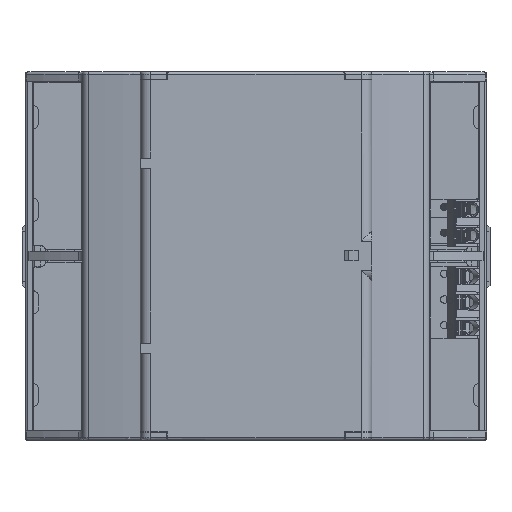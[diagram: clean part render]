
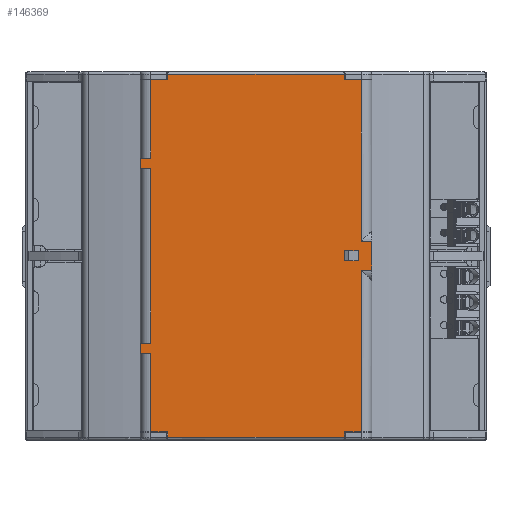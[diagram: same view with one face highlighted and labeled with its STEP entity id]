
A CAD part, top view. The second image highlights one B-rep face of the part: STEP entity #146369.
In plain terms, the highlighted planar face has unit normal (0, 0, 1) as drawn and (0, 1, 0) by its records, which use the part's own axes.
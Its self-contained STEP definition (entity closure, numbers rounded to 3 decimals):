
#1312=FACE_BOUND('',#17856,.T.);
#9997=FACE_OUTER_BOUND('',#17855,.T.);
#17855=EDGE_LOOP('',(#127456,#127457,#127458,#127459,#127460,#127461,#127462,
#127463,#127464,#127465,#127466,#127467,#127468,#127469,#127470,#127471,
#127472,#127473,#127474,#127475,#127476,#127477,#127478,#127479));
#17856=EDGE_LOOP('',(#127480,#127481,#127482,#127483));
#35796=LINE('',#229266,#54829);
#35798=LINE('',#229276,#54831);
#35799=LINE('',#229280,#54832);
#35817=LINE('',#229325,#54850);
#35830=LINE('',#229358,#54863);
#35836=LINE('',#229374,#54869);
#35842=LINE('',#229387,#54875);
#35855=LINE('',#229418,#54888);
#35856=LINE('',#229422,#54889);
#35870=LINE('',#229461,#54903);
#35891=LINE('',#229506,#54924);
#35916=LINE('',#229562,#54949);
#35917=LINE('',#229564,#54950);
#35918=LINE('',#229565,#54951);
#35919=LINE('',#229567,#54952);
#35920=LINE('',#229568,#54953);
#35921=LINE('',#229570,#54954);
#35922=LINE('',#229571,#54955);
#35923=LINE('',#229572,#54956);
#35924=LINE('',#229574,#54957);
#35925=LINE('',#229575,#54958);
#35926=LINE('',#229577,#54959);
#35927=LINE('',#229579,#54960);
#35928=LINE('',#229581,#54961);
#35929=LINE('',#229582,#54962);
#35930=LINE('',#229583,#54963);
#35931=LINE('',#229584,#54964);
#35932=LINE('',#229585,#54965);
#54829=VECTOR('',#187352,1.);
#54831=VECTOR('',#187362,1.);
#54832=VECTOR('',#187365,1.);
#54850=VECTOR('',#187401,1.);
#54863=VECTOR('',#187426,1.);
#54869=VECTOR('',#187440,1.);
#54875=VECTOR('',#187450,1.);
#54888=VECTOR('',#187475,1.);
#54889=VECTOR('',#187478,1.);
#54903=VECTOR('',#187510,1.);
#54924=VECTOR('',#187549,1.);
#54949=VECTOR('',#187600,1.);
#54950=VECTOR('',#187601,1.);
#54951=VECTOR('',#187602,1.);
#54952=VECTOR('',#187603,1.);
#54953=VECTOR('',#187604,1.);
#54954=VECTOR('',#187605,1.);
#54955=VECTOR('',#187606,1.);
#54956=VECTOR('',#187607,1.);
#54957=VECTOR('',#187608,1.);
#54958=VECTOR('',#187609,1.);
#54959=VECTOR('',#187610,1.);
#54960=VECTOR('',#187611,1.);
#54961=VECTOR('',#187612,1.);
#54962=VECTOR('',#187613,1.);
#54963=VECTOR('',#187614,1.);
#54964=VECTOR('',#187615,1.);
#54965=VECTOR('',#187616,1.);
#68934=VERTEX_POINT('',#229263);
#68935=VERTEX_POINT('',#229265);
#68936=VERTEX_POINT('',#229269);
#68939=VERTEX_POINT('',#229274);
#68940=VERTEX_POINT('',#229278);
#68941=VERTEX_POINT('',#229279);
#68958=VERTEX_POINT('',#229322);
#68959=VERTEX_POINT('',#229324);
#68972=VERTEX_POINT('',#229356);
#68973=VERTEX_POINT('',#229357);
#68979=VERTEX_POINT('',#229372);
#68983=VERTEX_POINT('',#229384);
#68984=VERTEX_POINT('',#229386);
#68996=VERTEX_POINT('',#229416);
#68997=VERTEX_POINT('',#229420);
#68998=VERTEX_POINT('',#229421);
#69013=VERTEX_POINT('',#229459);
#69014=VERTEX_POINT('',#229460);
#69029=VERTEX_POINT('',#229504);
#69046=VERTEX_POINT('',#229560);
#69047=VERTEX_POINT('',#229561);
#69048=VERTEX_POINT('',#229563);
#69049=VERTEX_POINT('',#229566);
#69050=VERTEX_POINT('',#229569);
#69051=VERTEX_POINT('',#229573);
#69052=VERTEX_POINT('',#229576);
#69053=VERTEX_POINT('',#229578);
#69054=VERTEX_POINT('',#229580);
#88725=EDGE_CURVE('',#68934,#68935,#35796,.T.);
#88730=EDGE_CURVE('',#68939,#68936,#35798,.T.);
#88731=EDGE_CURVE('',#68940,#68941,#35799,.T.);
#88752=EDGE_CURVE('',#68958,#68959,#35817,.T.);
#88767=EDGE_CURVE('',#68972,#68973,#35830,.T.);
#88775=EDGE_CURVE('',#68979,#68958,#35836,.T.);
#88781=EDGE_CURVE('',#68983,#68984,#35842,.T.);
#88797=EDGE_CURVE('',#68996,#68934,#35855,.T.);
#88798=EDGE_CURVE('',#68997,#68998,#35856,.T.);
#88816=EDGE_CURVE('',#69013,#69014,#35870,.T.);
#88840=EDGE_CURVE('',#69029,#68979,#35891,.T.);
#88868=EDGE_CURVE('',#69046,#69047,#35916,.T.);
#88869=EDGE_CURVE('',#69048,#69046,#35917,.T.);
#88870=EDGE_CURVE('',#69048,#69013,#35918,.T.);
#88871=EDGE_CURVE('',#69014,#69049,#35919,.T.);
#88872=EDGE_CURVE('',#69049,#68936,#35920,.T.);
#88873=EDGE_CURVE('',#68939,#69050,#35921,.T.);
#88874=EDGE_CURVE('',#69050,#68935,#35922,.T.);
#88875=EDGE_CURVE('',#68972,#68996,#35923,.T.);
#88876=EDGE_CURVE('',#68973,#69051,#35924,.T.);
#88877=EDGE_CURVE('',#68940,#69051,#35925,.T.);
#88878=EDGE_CURVE('',#68941,#69052,#35926,.T.);
#88879=EDGE_CURVE('',#69052,#69053,#35927,.T.);
#88880=EDGE_CURVE('',#69054,#69053,#35928,.T.);
#88881=EDGE_CURVE('',#68984,#69054,#35929,.T.);
#88882=EDGE_CURVE('',#68997,#68983,#35930,.T.);
#88883=EDGE_CURVE('',#69047,#68998,#35931,.T.);
#88884=EDGE_CURVE('',#69029,#68959,#35932,.T.);
#127456=ORIENTED_EDGE('',*,*,#88868,.F.);
#127457=ORIENTED_EDGE('',*,*,#88869,.F.);
#127458=ORIENTED_EDGE('',*,*,#88870,.T.);
#127459=ORIENTED_EDGE('',*,*,#88816,.T.);
#127460=ORIENTED_EDGE('',*,*,#88871,.T.);
#127461=ORIENTED_EDGE('',*,*,#88872,.T.);
#127462=ORIENTED_EDGE('',*,*,#88730,.F.);
#127463=ORIENTED_EDGE('',*,*,#88873,.T.);
#127464=ORIENTED_EDGE('',*,*,#88874,.T.);
#127465=ORIENTED_EDGE('',*,*,#88725,.F.);
#127466=ORIENTED_EDGE('',*,*,#88797,.F.);
#127467=ORIENTED_EDGE('',*,*,#88875,.F.);
#127468=ORIENTED_EDGE('',*,*,#88767,.T.);
#127469=ORIENTED_EDGE('',*,*,#88876,.T.);
#127470=ORIENTED_EDGE('',*,*,#88877,.F.);
#127471=ORIENTED_EDGE('',*,*,#88731,.T.);
#127472=ORIENTED_EDGE('',*,*,#88878,.T.);
#127473=ORIENTED_EDGE('',*,*,#88879,.T.);
#127474=ORIENTED_EDGE('',*,*,#88880,.F.);
#127475=ORIENTED_EDGE('',*,*,#88881,.F.);
#127476=ORIENTED_EDGE('',*,*,#88781,.F.);
#127477=ORIENTED_EDGE('',*,*,#88882,.F.);
#127478=ORIENTED_EDGE('',*,*,#88798,.T.);
#127479=ORIENTED_EDGE('',*,*,#88883,.F.);
#127480=ORIENTED_EDGE('',*,*,#88752,.F.);
#127481=ORIENTED_EDGE('',*,*,#88775,.F.);
#127482=ORIENTED_EDGE('',*,*,#88840,.F.);
#127483=ORIENTED_EDGE('',*,*,#88884,.T.);
#139414=PLANE('',#154810);
#146369=ADVANCED_FACE('',(#9997,#1312),#139414,.T.);
#154810=AXIS2_PLACEMENT_3D('',#229559,#187598,#187599);
#187352=DIRECTION('',(0.,0.,-1.));
#187362=DIRECTION('',(1.,0.,0.));
#187365=DIRECTION('',(0.,0.,1.));
#187401=DIRECTION('',(0.,0.,1.));
#187426=DIRECTION('',(1.,0.,0.));
#187440=DIRECTION('',(-1.,0.,0.));
#187450=DIRECTION('',(-1.,0.,0.));
#187475=DIRECTION('',(1.,0.,0.));
#187478=DIRECTION('',(-1.,0.,0.));
#187510=DIRECTION('',(0.,0.,-1.));
#187549=DIRECTION('',(0.,0.,-1.));
#187598=DIRECTION('center_axis',(0.,1.,0.));
#187599=DIRECTION('ref_axis',(0.,0.,-1.));
#187600=DIRECTION('',(-1.,0.,0.));
#187601=DIRECTION('',(0.,0.,1.));
#187602=DIRECTION('',(-1.,0.,0.));
#187603=DIRECTION('',(-1.,0.,0.));
#187604=DIRECTION('',(0.,0.,-1.));
#187605=DIRECTION('',(0.,0.,1.));
#187606=DIRECTION('',(-1.,0.,0.));
#187607=DIRECTION('',(0.,0.,-1.));
#187608=DIRECTION('',(0.,0.,1.));
#187609=DIRECTION('',(-1.,0.,0.));
#187610=DIRECTION('',(1.,0.,0.));
#187611=DIRECTION('',(0.,0.,-1.));
#187612=DIRECTION('',(-1.,0.,0.));
#187613=DIRECTION('',(0.,0.,1.));
#187614=DIRECTION('',(0.,0.,1.));
#187615=DIRECTION('',(0.,0.,1.));
#187616=DIRECTION('',(-1.,0.,0.));
#229263=CARTESIAN_POINT('',(-20.5,54.7,33.2));
#229265=CARTESIAN_POINT('',(-20.5,54.7,1.8));
#229266=CARTESIAN_POINT('',(-20.5,54.7,0.2));
#229269=CARTESIAN_POINT('',(17.2,54.7,0.7));
#229274=CARTESIAN_POINT('',(-17.2,54.7,0.7));
#229276=CARTESIAN_POINT('',(20.5,54.7,0.7));
#229278=CARTESIAN_POINT('',(-17.2,54.7,70.2));
#229279=CARTESIAN_POINT('',(-17.2,54.7,71.3));
#229280=CARTESIAN_POINT('',(-17.2,54.7,29.186));
#229322=CARTESIAN_POINT('',(-19.9,54.7,35.));
#229324=CARTESIAN_POINT('',(-19.9,54.7,37.));
#229325=CARTESIAN_POINT('',(-19.9,54.7,29.186));
#229356=CARTESIAN_POINT('',(-22.5,54.7,38.8));
#229357=CARTESIAN_POINT('',(-20.5,54.7,38.8));
#229358=CARTESIAN_POINT('',(-5.65,54.7,38.8));
#229372=CARTESIAN_POINT('',(-17.181,54.7,35.));
#229374=CARTESIAN_POINT('',(-1.588,54.7,35.));
#229384=CARTESIAN_POINT('',(22.5,54.7,55.));
#229386=CARTESIAN_POINT('',(20.5,54.7,55.));
#229387=CARTESIAN_POINT('',(-1.588,54.7,55.));
#229416=CARTESIAN_POINT('',(-22.5,54.7,33.2));
#229418=CARTESIAN_POINT('',(-5.65,54.7,33.2));
#229420=CARTESIAN_POINT('',(22.5,54.7,53.));
#229421=CARTESIAN_POINT('',(20.5,54.7,53.));
#229422=CARTESIAN_POINT('',(-1.588,54.7,53.));
#229459=CARTESIAN_POINT('',(20.5,54.7,17.));
#229460=CARTESIAN_POINT('',(20.5,54.7,1.8));
#229461=CARTESIAN_POINT('',(20.5,54.7,19.725));
#229504=CARTESIAN_POINT('',(-17.181,54.7,37.));
#229506=CARTESIAN_POINT('',(-17.181,54.7,29.186));
#229559=CARTESIAN_POINT('Origin',(20.5,54.7,22.055));
#229560=CARTESIAN_POINT('',(22.5,54.7,19.));
#229561=CARTESIAN_POINT('',(20.5,54.7,19.));
#229562=CARTESIAN_POINT('',(-1.588,54.7,19.));
#229563=CARTESIAN_POINT('',(22.5,54.7,17.));
#229564=CARTESIAN_POINT('',(22.5,54.7,29.186));
#229565=CARTESIAN_POINT('',(-1.588,54.7,17.));
#229566=CARTESIAN_POINT('',(17.2,54.7,1.8));
#229567=CARTESIAN_POINT('',(-1.588,54.7,1.8));
#229568=CARTESIAN_POINT('',(17.2,54.7,29.186));
#229569=CARTESIAN_POINT('',(-17.2,54.7,1.8));
#229570=CARTESIAN_POINT('',(-17.2,54.7,29.186));
#229571=CARTESIAN_POINT('',(-1.588,54.7,1.8));
#229572=CARTESIAN_POINT('',(-22.5,54.7,29.186));
#229573=CARTESIAN_POINT('',(-20.5,54.7,70.2));
#229574=CARTESIAN_POINT('',(-20.5,54.7,71.8));
#229575=CARTESIAN_POINT('',(-1.588,54.7,70.2));
#229576=CARTESIAN_POINT('',(17.2,54.7,71.3));
#229577=CARTESIAN_POINT('',(20.5,54.7,71.3));
#229578=CARTESIAN_POINT('',(17.2,54.7,70.2));
#229579=CARTESIAN_POINT('',(17.2,54.7,29.186));
#229580=CARTESIAN_POINT('',(20.5,54.7,70.2));
#229581=CARTESIAN_POINT('',(-1.588,54.7,70.2));
#229582=CARTESIAN_POINT('',(20.5,54.7,52.275));
#229583=CARTESIAN_POINT('',(22.5,54.7,29.186));
#229584=CARTESIAN_POINT('',(20.5,54.7,53.));
#229585=CARTESIAN_POINT('',(-1.588,54.7,37.));
